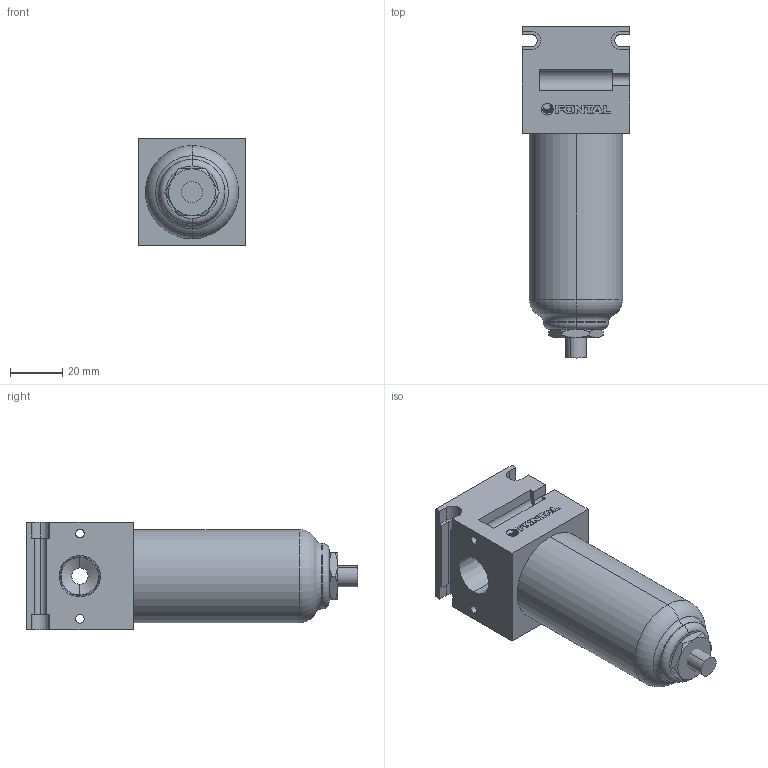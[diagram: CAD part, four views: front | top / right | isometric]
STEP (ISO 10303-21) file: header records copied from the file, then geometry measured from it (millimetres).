
FILE_DESCRIPTION (( 'STEP AP203' ), '1' );
FILE_NAME ('F45-03#Y#.STEP', '2016-02-03T06:14:04', ( '' ), ( '' ), 'SwSTEP 2.0', 'SolidWorks 2014', '' );
FILE_SCHEMA (( 'CONFIG_CONTROL_DESIGN' ));
Length unit declared in the file: millimetre
Products named in the file (6): F45-03; F45-2; F45-3; F45-MARK; F45-03#Y#
Assembly tree (5 placements, depth 2):
  F45-03#Y#
    F45-03
    F45-2
    F45-3
    (unnamed)
    F45-MARK
Bounding box: 41 x 126.5 x 41.12 mm (x, y, z)
Volume: 128906 mm3; surface area: 24973.9 mm2
Topology: 11 solids, 11 shells, 196 faces, 498 edges, 326 vertices
Faces by surface type: plane 117, cylinder 51, cone 14, bspline 8, torus 6
Entity records: 6684 total; most frequent: CARTESIAN_POINT 1268, ORIENTED_EDGE 996, DIRECTION 984, EDGE_CURVE 498, VECTOR 340, LINE 340, VERTEX_POINT 326, AXIS2_PLACEMENT_3D 322
